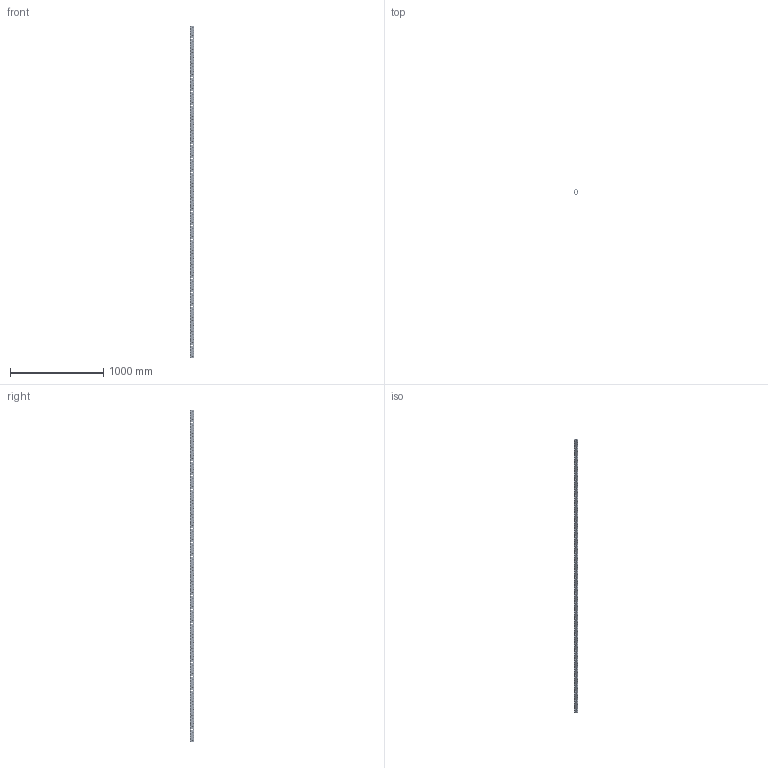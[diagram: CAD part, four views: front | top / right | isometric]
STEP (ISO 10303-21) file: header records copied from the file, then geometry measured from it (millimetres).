
FILE_DESCRIPTION(('CATIA V5 STEP Exchange'),'2;1');
FILE_NAME('U:\Room\唐宝山\EGT002\46-01-010348-01-EGT002-3568.stp','2021-08-25T00:39:43+00:00',('none'),('none'),'CATIA Version 5 Release 21 GA (IN-10)','CATIA V5 STEP AP203','none');
FILE_SCHEMA(('CONFIG_CONTROL_DESIGN'));
Products named in the file (1): 46-01-010348-01-EGT002-3568
Bounding box: 50 x 50 x 3568 mm (x, y, z)
Volume: 2542375.7 mm3; surface area: 1224300.7 mm2
Topology: 1 solids, 1 shells, 4844 faces, 13336 edges, 8256 vertices
Faces by surface type: cone 2856, cylinder 1962, plane 26
Entity records: 205790 total; most frequent: CARTESIAN_POINT 89241, ORIENTED_EDGE 26672, DIRECTION 18516, EDGE_CURVE 13336, AXIS2_PLACEMENT_3D 8545, VERTEX_POINT 8256, EDGE_LOOP 6512, VECTOR 5128
